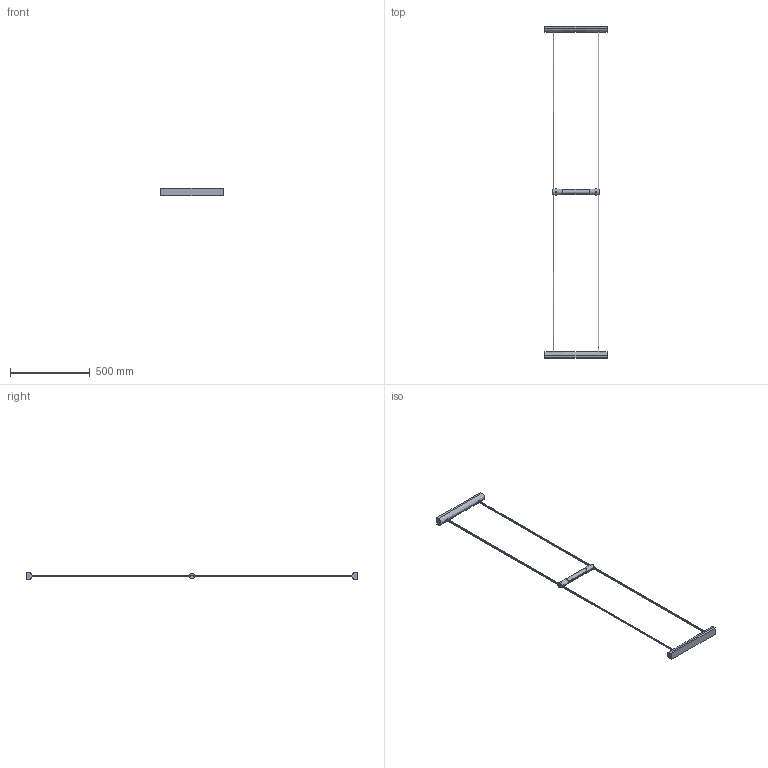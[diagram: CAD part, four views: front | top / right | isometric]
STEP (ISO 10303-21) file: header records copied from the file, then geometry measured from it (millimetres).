
FILE_DESCRIPTION(/* description */ (''),/* implementation_level */ '2;1');
FILE_NAME(/* name */ 'cini&nils-TensoStilo-3d',/* time_stamp */ '2017-06-12T15:22:45+02:00',/* author */ (''),/* organization */ (''),/* preprocessor_version */ 'ST-DEVELOPER v15',/* originating_system */ '',/* authorisation */ '');
FILE_SCHEMA (('CONFIG_CONTROL_DESIGN'));
Length unit declared in the file: millimetre
Products named in the file (4): CINIENILS_TENSOSTILO_ASM; CINIENILS_TENSOSTILO; Blocco 01; TESATA_280
Assembly tree (3 placements, depth 3):
  CINIENILS_TENSOSTILO_ASM
    CINIENILS_TENSOSTILO
      Blocco 01
    TESATA_280
Bounding box: 388 x 2076 x 48 mm (x, y, z)
Volume: 1634810.1 mm3; surface area: 263970.3 mm2
Topology: 4 solids, 4 shells, 246 faces, 628 edges, 400 vertices
Faces by surface type: bspline 174, plane 72
Entity records: 12008 total; most frequent: CARTESIAN_POINT 7903, ORIENTED_EDGE 1256, EDGE_CURVE 628, B_SPLINE_CURVE_WITH_KNOTS 464, VERTEX_POINT 400, EDGE_LOOP 258, ADVANCED_FACE 246, FACE_OUTER_BOUND 246
